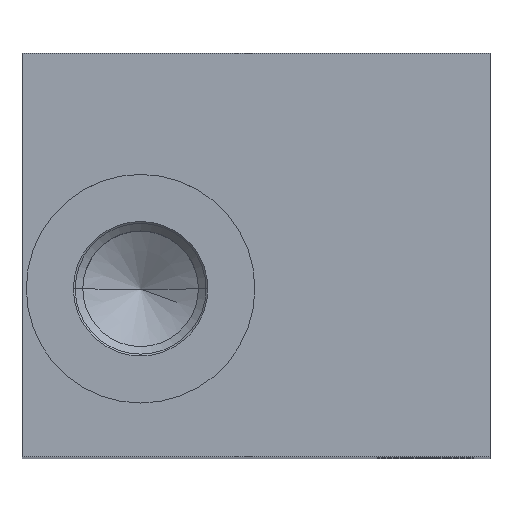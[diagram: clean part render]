
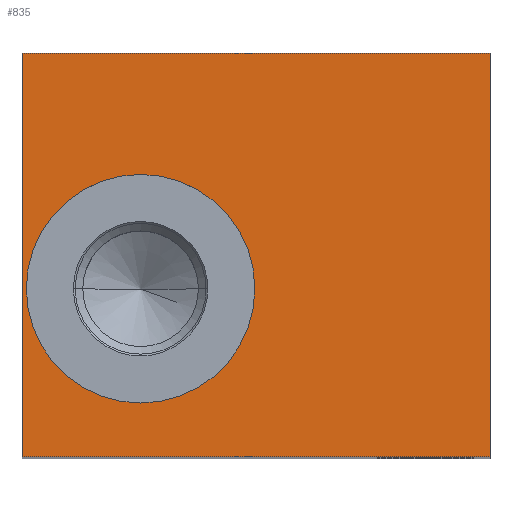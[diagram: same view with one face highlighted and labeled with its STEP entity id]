
A CAD part, top view. The second image highlights one B-rep face of the part: STEP entity #835.
In plain terms, the highlighted planar face has unit normal (0, 0, 1).
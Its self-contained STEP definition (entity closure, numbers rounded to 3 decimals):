
#134=DIRECTION('',(0.,-1.,0.));
#135=VECTOR('',#134,30.);
#136=CARTESIAN_POINT('',(-17.4,15.,38.));
#137=LINE('',#136,#135);
#138=DIRECTION('',(-1.,0.,0.));
#139=VECTOR('',#138,34.8);
#140=CARTESIAN_POINT('',(17.4,15.,38.));
#141=LINE('',#140,#139);
#142=DIRECTION('',(0.,1.,0.));
#143=VECTOR('',#142,30.);
#144=CARTESIAN_POINT('',(17.4,-15.,38.));
#145=LINE('',#144,#143);
#146=DIRECTION('',(1.,0.,0.));
#147=VECTOR('',#146,34.8);
#148=CARTESIAN_POINT('',(-17.4,-15.,38.));
#149=LINE('',#148,#147);
#150=CARTESIAN_POINT('',(-8.581,-2.5,38.));
#151=DIRECTION('',(0.,0.,-1.));
#152=DIRECTION('',(1.,0.,0.));
#153=AXIS2_PLACEMENT_3D('',#150,#151,#152);
#155=CARTESIAN_POINT('',(-8.581,-2.5,38.));
#156=DIRECTION('',(0.,0.,-1.));
#157=DIRECTION('',(-1.,0.,0.));
#158=AXIS2_PLACEMENT_3D('',#155,#156,#157);
#548=CARTESIAN_POINT('',(-17.4,15.,38.));
#549=CARTESIAN_POINT('',(-17.4,-15.,38.));
#550=VERTEX_POINT('',#548);
#551=VERTEX_POINT('',#549);
#552=CARTESIAN_POINT('',(17.4,-15.,38.));
#553=VERTEX_POINT('',#552);
#554=CARTESIAN_POINT('',(17.4,15.,38.));
#555=VERTEX_POINT('',#554);
#640=CARTESIAN_POINT('',(-0.081,-2.5,38.));
#641=CARTESIAN_POINT('',(-17.081,-2.5,38.));
#642=VERTEX_POINT('',#640);
#643=VERTEX_POINT('',#641);
#818=CARTESIAN_POINT('',(0.,0.,38.));
#819=DIRECTION('',(0.,0.,1.));
#820=DIRECTION('',(1.,0.,0.));
#821=AXIS2_PLACEMENT_3D('',#818,#819,#820);
#822=PLANE('',#821);
#823=ORIENTED_EDGE('',*,*,#716,.F.);
#824=ORIENTED_EDGE('',*,*,#749,.F.);
#825=ORIENTED_EDGE('',*,*,#787,.F.);
#826=ORIENTED_EDGE('',*,*,#800,.F.);
#827=EDGE_LOOP('',(#823,#824,#825,#826));
#828=FACE_OUTER_BOUND('',#827,.F.);
#830=ORIENTED_EDGE('',*,*,#829,.F.);
#832=ORIENTED_EDGE('',*,*,#831,.F.);
#833=EDGE_LOOP('',(#830,#832));
#834=FACE_BOUND('',#833,.F.);
#835=ADVANCED_FACE('',(#828,#834),#822,.T.);
#154=CIRCLE('',#153,8.5);
#159=CIRCLE('',#158,8.5);
#716=EDGE_CURVE('',#550,#551,#137,.T.);
#749=EDGE_CURVE('',#555,#550,#141,.T.);
#787=EDGE_CURVE('',#553,#555,#145,.T.);
#800=EDGE_CURVE('',#551,#553,#149,.T.);
#829=EDGE_CURVE('',#642,#643,#154,.T.);
#831=EDGE_CURVE('',#643,#642,#159,.T.);
